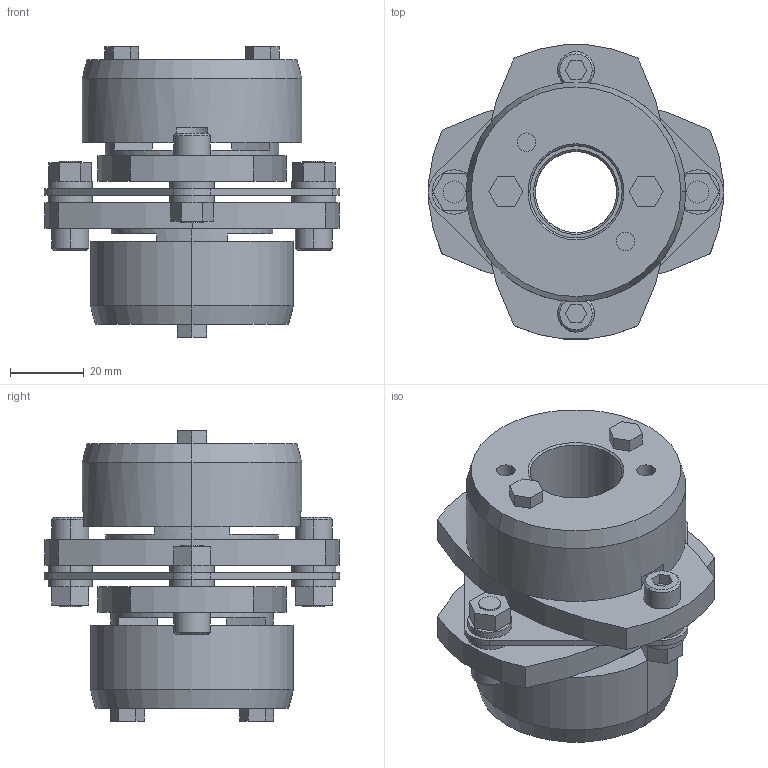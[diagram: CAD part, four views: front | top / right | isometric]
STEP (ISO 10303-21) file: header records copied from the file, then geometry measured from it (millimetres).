
FILE_DESCRIPTION((''),'2;1');
FILE_NAME('LCS-80T7-22×25.stp','2011-09-12T15:50:46',(''),(''),'AutoCAD STEP 2000i','AutoCAD 2000i',', , ');
FILE_SCHEMA(('CONFIG_CONTROL_DESIGN'));
Length unit declared in the file: millimetre
Products named in the file (9): LCS-80T7-22×24; 忣兜1; LC80T7-T024; LC80T7-T022-1; LC80T7-T022; LC80T7-T019; LC80T7-T017-1; LC80T7-T017; LCS80-ITA
Assembly tree (8 placements, depth 2):
  LCS-80T7-22×24
    忣兜1
    LC80T7-T024
    LC80T7-T022-1
    LC80T7-T022
    LC80T7-T019
    LC80T7-T017-1
    LC80T7-T017
    LCS80-ITA
Bounding box: 80 x 79.95 x 78.75 mm (x, y, z)
Volume: 152587 mm3; surface area: 43218.9 mm2
Topology: 1 solids, 1 shells, 222 faces, 544 edges, 356 vertices
Faces by surface type: plane 120, cylinder 82, cone 20
Entity records: 6815 total; most frequent: DIRECTION 1210, CARTESIAN_POINT 1131, ORIENTED_EDGE 1088, EDGE_CURVE 544, AXIS2_PLACEMENT_3D 435, VERTEX_POINT 356, VECTOR 340, LINE 340
